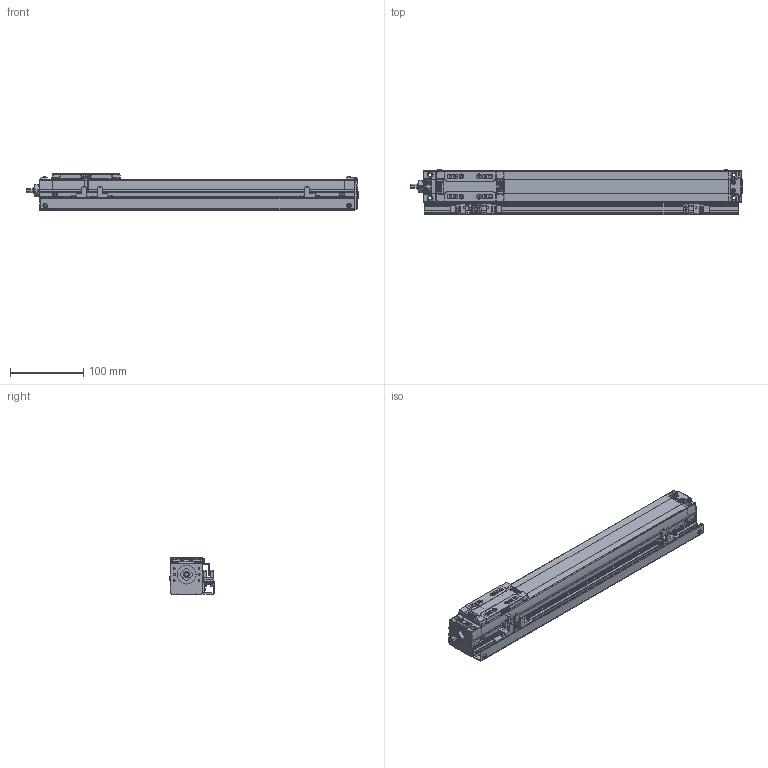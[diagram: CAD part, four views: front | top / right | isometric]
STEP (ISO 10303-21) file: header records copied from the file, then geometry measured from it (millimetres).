
FILE_DESCRIPTION(('STEP AP214'),'1');
FILE_NAME('Z:/Web/3D/SAN45/STP/SAN45ㅁㅁ-300+3SR.stp','2012-06-15T05:15:15',(' '),(' '),'Spatial InterOp 3D',' ',' ');
FILE_SCHEMA(('automotive_design'));
Length unit declared in the file: metre
Products named in the file (51): SAN45__-300; BODY-SAN45; REAR-SAN45; RRCV-SAN45; BHCS M3 x 6L; BHCS M3 X 6L; FRONT-SAN45; SHAFT; RN8 x 0.75; SSFX-SAN45; SLIDE-SAN45; SLCV-IM45; FHCS M3 x 6L; ____81; 3SR; SRL-16x17-380L; - OT; EE-SX674; SBK-SX674-352; HOME; + OT; DOG; SDG-SA45; SCREW M3 x 5L
Assembly tree (50 placements, depth 4):
  ____81
    SAN45__-300
      BODY-SAN45
      REAR-SAN45
        REAR-SAN45
        RRCV-SAN45
        BHCS M3 x 6L
        BHCS M3 X 6L
        BHCS M3 x 6L
        BHCS M3 x 6L
        BHCS M3 x 6L
        BHCS M3 x 6L
      FRONT-SAN45
        FRONT-SAN45
        SHAFT
        RN8 x 0.75
        SSFX-SAN45
        BHCS M3 x 6L
        BHCS M3 x 6L
        BHCS M3 x 6L
        BHCS M3 x 6L
      SLIDE-SAN45
        SLIDE-SAN45
        SLCV-IM45
        FHCS M3 x 6L
        FHCS M3 x 6L
        FHCS M3 x 6L
        FHCS M3 x 6L
    3SR
      SRL-16x17-380L
      BHCS M3 x 6L
      BHCS M3 x 6L
      - OT
        EE-SX674
        BHCS M3 x 6L
        BHCS M3 x 6L
        SBK-SX674-352
      HOME
        EE-SX674
        BHCS M3 x 6L
        BHCS M3 x 6L
        SBK-SX674-352
      + OT
        EE-SX674
        BHCS M3 x 6L
        BHCS M3 x 6L
        SBK-SX674-352
      DOG
        SDG-SA45
        SCREW M3 x 5L
        SCREW M3 x 5L
Bounding box: 454.65 x 62.06 x 50 mm (x, y, z)
Volume: 854580.7 mm3; surface area: 184805.9 mm2
Topology: 41 solids, 41 shells, 1934 faces, 4925 edges, 3171 vertices
Faces by surface type: plane 1239, cylinder 495, cone 78, sphere 52, bspline 42, torus 25, extrusion 3
Full cylindrical faces by diameter (mm): 0.376 x2, 0.47 x1, 1.137 x2, 1.421 x1, 1.665 x4, 2.081 x2, 2.2 x4, 2.5 x19, 3 x6, 3.193 x4, 3.3 x4, 3.4 x4, 3.5 x14, 3.991 x2, 4.2 x9, 4.5 x4, 5 x3, 6 x6, 6.5 x2, 7 x1, 8 x8, 13 x1, 15 x1, 19 x1
Entity records: 77144 total; most frequent: CARTESIAN_POINT 14133, DIRECTION 9722, ORIENTED_EDGE 9266, EDGE_CURVE 4633, VECTOR 3250, LINE 3247, AXIS2_PLACEMENT_3D 3236, VERTEX_POINT 3117
